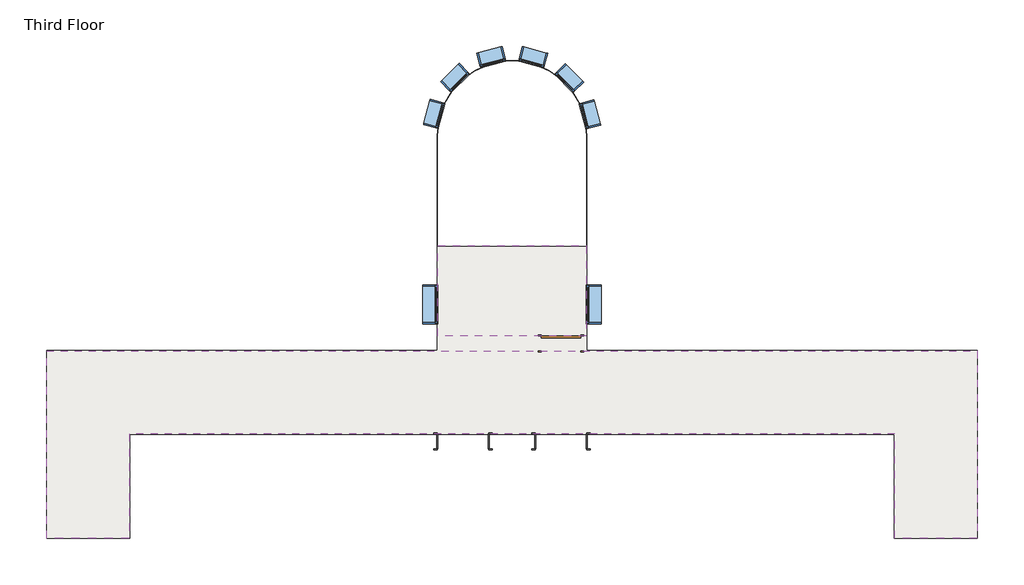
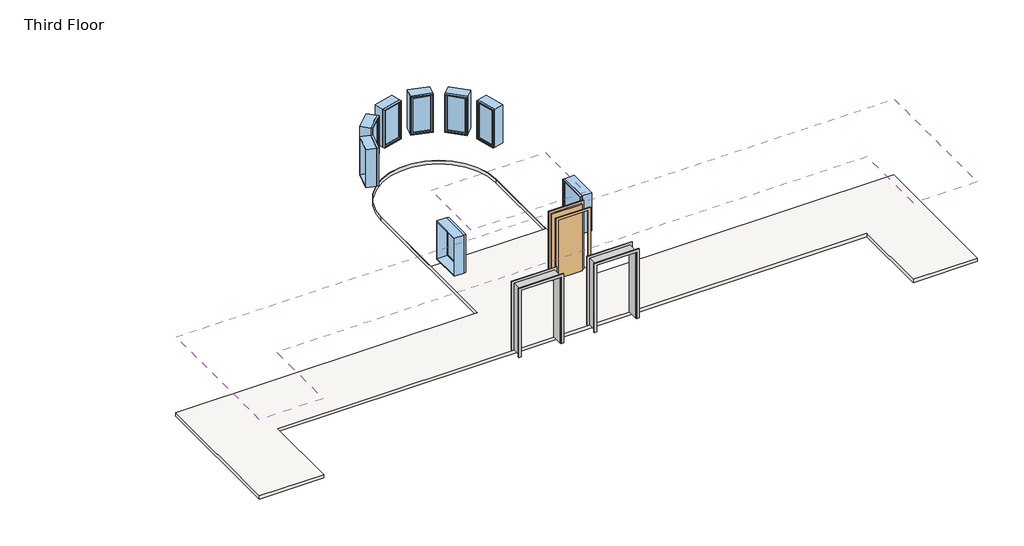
# One storey: 8 windows, 2 coverings, 2 proxies, 1 door, 1 slab.
"""IFC4 building model written with IfcOpenShell, lengths in millimetres."""

from ifc_helpers import new_model, si_unit, point, frame, frame_2d, origin, place, context, project, spatial, polyline, circle_curve, trimmed, segment, composite_curve, outline, extrude, transform, mapped, element, save
from components import proxy_c3589814, door_632be17d, window_60baf983, window_15c49d37

model = new_model("IFC4")

# Units and contexts
model_context = context("Model", 3, world=origin())
ifc_project = project(units=[si_unit("LENGTHUNIT", "METRE", prefix="MILLI")], contexts=[model_context])

# Site, building, storey
site = spatial("IfcSite", under=ifc_project)
building = spatial("IfcBuilding", under=site)
storey = spatial("IfcBuildingStorey", under=building, Name="Third Floor", Elevation=6096.0)

# Proxies
placement = place(None, origin())
proxy_shape = proxy_c3589814(model_context)
element("IfcBuildingElementProxy", 1, Name="Opening-Cased : 48\" x 84\"", ObjectType="Opening-Cased : 48\" x 84\"", at=placement, inside=storey, context=model_context, shape_type="MappedRepresentation", body=[
    mapped(proxy_shape, transform((-7396.8036255, 2429.9758812, 6096.0), x_axis=(-1.0, 0.0, 0.0), y_axis=(0.0, -1.0, 0.0), z_axis=(0.0, 0.0, 1.0))),
])
element("IfcBuildingElementProxy", 2, Name="Opening-Cased : 48\" x 84\"", ObjectType="Opening-Cased : 48\" x 84\"", at=placement, inside=storey, context=model_context, shape_type="MappedRepresentation", body=[
    mapped(proxy_shape, transform((-5110.8036255, 2429.9758812, 6096.0), x_axis=(-1.0, 0.0, 0.0), y_axis=(0.0, -1.0, 0.0), z_axis=(0.0, 0.0, 1.0))),
])

# Coverings
element("IfcCovering", 3, ObjectType="GWB on Mtl. Stud", at=placement, inside=storey, context=model_context, shape_type="SweptSolid", body=[
    extrude(outline(polyline([(-4516.8274687, 4892.1883812), (-7974.4024687, 4892.1883812), (-7974.4024687, 7001.9758812), (-4516.8274687, 7001.9758812), (-4516.8274687, 4892.1883812)])), frame((0.0, 0.0, 8534.4), z_axis=(0.0, 0.0, 1.0), x_axis=(1.0, 0.0, 0.0)), (0.0, 0.0, 1.0), 107.95),
])
element("IfcCovering", 4, ObjectType="GWB on Mtl. Stud", at=placement, inside=storey, context=model_context, shape_type="SweptSolid", body=[
    extrude(outline(polyline([(2693.5975313, 167.7883812), (2693.5975313, 2606.1883812), (-15184.8274687, 2606.1883812), (-15184.8274687, 167.7883812), (-17118.4024687, 167.7883812), (-17118.4024687, 4539.7633812), (4627.1725313, 4539.7633812), (4627.1725313, 167.7883812), (2693.5975313, 167.7883812)])), frame((0.0, 0.0, 8534.4), z_axis=(0.0, 0.0, 1.0), x_axis=(1.0, 0.0, 0.0)), (0.0, 0.0, 1.0), 107.95),
])

# Door
door_shape = door_632be17d(model_context)
element("IfcDoor", 5, ObjectType="Single-Flush : 36\" x 84\"", at=placement, inside=storey, context=model_context, shape_type="MappedRepresentation", body=[
    mapped(door_shape, transform((-5102.6149687, 4715.9758812, 6096.0), x_axis=(1.0, 0.0, 0.0), y_axis=(0.0, 1.0, 0.0), z_axis=(0.0, 0.0, 1.0))),
])

# Slab
element("IfcSlab", 6, ObjectType="LW Concrete on Metal Deck", at=placement, inside=storey, context=model_context, shape_type="SweptSolid", body=[
    extrude(outline(composite_curve([segment(polyline([(-4504.1274687, 9592.7758812), (-4504.1274687, 4552.4633812), (4627.1725313, 4552.4633812), (4627.1725313, 167.7883812), (2680.8975313, 167.7883812), (2680.8975313, 2593.4883812), (-15172.1274687, 2593.4883812), (-15172.1274687, 167.7883812), (-17118.4024687, 167.7883812), (-17118.4024687, 4552.4633812), (-7987.1024687, 4552.4633812), (-7987.1024687, 9592.7758812)]), True, "CONTINUOUS"), segment(trimmed(circle_curve(frame_2d((-6245.6149687, 9592.7758812)), 1741.4875), [point((-7987.1024687, 9592.7758812))], [point((-4504.1274687, 9592.7758812))], False, "CARTESIAN"), True, "CONTINUOUS")], self_intersect=False), holes=[composite_curve([segment(polyline([(-7974.4024687, 7001.9758812), (-4516.8274687, 7001.9758812), (-4516.8274687, 9592.7758812)]), True, "CONTINUOUS"), segment(trimmed(circle_curve(frame_2d((-6245.6149687, 9592.7758812)), 1728.7875), [point((-4516.8274687, 9592.7758812))], [point((-7974.4024687, 9592.7758812))], True, "CARTESIAN"), True, "CONTINUOUS"), segment(polyline([(-7974.4024687, 9592.7758812), (-7974.4024687, 7001.9758812)]), True, "CONTINUOUS")], self_intersect=False)]), frame((0.0, 0.0, 5991.225), z_axis=(0.0, 0.0, 1.0), x_axis=(1.0, 0.0, 0.0)), (0.0, 0.0, 1.0), 104.775),
])

# Windows
window_shape = window_60baf983(model_context)
element("IfcWindow", 7, ObjectType="Fixed : 24\" x 48\"", at=placement, inside=storey, context=model_context, shape_type="MappedRepresentation", body=[
    mapped(window_shape, transform((-8072.5076754, 10048.7859441, 6096.0), x_axis=(-0.26176149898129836, -0.9651325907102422, 0.0), y_axis=(0.9651325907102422, -0.26176149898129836, 0.0), z_axis=(0.0, 0.0, 1.0))),
])
element("IfcWindow", 8, ObjectType="Fixed : 24\" x 48\"", at=placement, inside=storey, context=model_context, shape_type="MappedRepresentation", body=[
    mapped(window_shape, transform((-7599.7454312, 10901.1385333, 6096.0), x_axis=(-0.7092584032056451, -0.7049485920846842, 0.0), y_axis=(0.7049485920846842, -0.7092584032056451, 0.0), z_axis=(0.0, 0.0, 1.0))),
])
element("IfcWindow", 9, ObjectType="Fixed : 24\" x 48\"", at=placement, inside=storey, context=model_context, shape_type="MappedRepresentation", body=[
    mapped(window_shape, transform((-6764.1450232, 11402.9164066, 6096.0), x_axis=(-0.9667100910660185, -0.25587418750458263, 0.0), y_axis=(0.25587418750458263, -0.9667100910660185, 0.0), z_axis=(0.0, 0.0, 1.0))),
])
element("IfcWindow", 10, ObjectType="Fixed : 24\" x 48\"", at=placement, inside=storey, context=model_context, shape_type="MappedRepresentation", body=[
    mapped(window_shape, transform((-5789.6049059, 11419.6685878, 6096.0), x_axis=(-0.9651325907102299, 0.2617614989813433, 0.0), y_axis=(-0.2617614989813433, -0.9651325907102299, 0.0), z_axis=(0.0, 0.0, 1.0))),
])
element("IfcWindow", 11, ObjectType="Fixed : 24\" x 48\"", at=placement, inside=storey, context=model_context, shape_type="MappedRepresentation", body=[
    mapped(window_shape, transform((-4937.2523166, 10946.9063437, 6096.0), x_axis=(-0.7049485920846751, 0.7092584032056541, 0.0), y_axis=(-0.7092584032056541, -0.7049485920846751, 0.0), z_axis=(0.0, 0.0, 1.0))),
])
element("IfcWindow", 12, ObjectType="Fixed : 24\" x 48\"", at=placement, inside=storey, context=model_context, shape_type="MappedRepresentation", body=[
    mapped(window_shape, transform((-4435.4744434, 10111.3059357, 6096.0), x_axis=(-0.25587418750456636, 0.9667100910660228, 0.0), y_axis=(-0.9667100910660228, -0.25587418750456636, 0.0), z_axis=(0.0, 0.0, 1.0))),
])
window_2_shape = window_15c49d37(model_context)
element("IfcWindow", 13, ObjectType="Fixed : 36\" x 48\"", at=placement, inside=storey, context=model_context, shape_type="MappedRepresentation", body=[
    mapped(window_2_shape, transform((-8150.6149687, 5592.2758812, 6096.0), x_axis=(0.0, -1.0, 0.0), y_axis=(1.0, 0.0, 0.0), z_axis=(0.0, 0.0, 1.0))),
])
element("IfcWindow", 14, ObjectType="Fixed : 36\" x 48\"", at=placement, inside=storey, context=model_context, shape_type="MappedRepresentation", body=[
    mapped(window_2_shape, transform((-4340.6149687, 5668.4758812, 6096.0), x_axis=(0.0, 1.0, 0.0), y_axis=(-1.0, 0.0, 0.0), z_axis=(0.0, 0.0, 1.0))),
])

save(model, "model.ifc")
